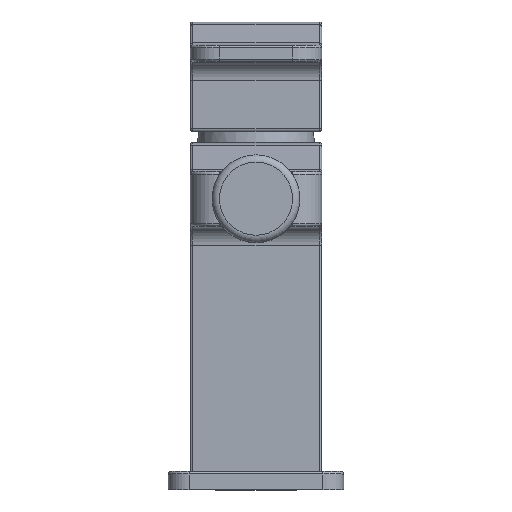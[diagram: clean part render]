
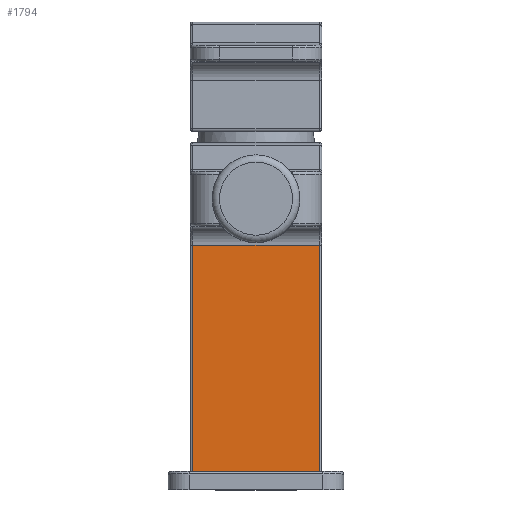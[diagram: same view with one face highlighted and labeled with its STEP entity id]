
A CAD part, top view. The second image highlights one B-rep face of the part: STEP entity #1794.
In plain terms, the highlighted planar face has unit normal (0, 0, 1).
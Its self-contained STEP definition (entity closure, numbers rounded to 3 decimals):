
#94=PLANE('',#2024);
#172=FACE_OUTER_BOUND('',#294,.T.);
#294=EDGE_LOOP('',(#1429,#1430,#1431,#1432));
#352=LINE('',#2832,#471);
#360=LINE('',#2882,#479);
#395=LINE('',#3026,#514);
#415=LINE('',#3100,#534);
#471=VECTOR('',#2185,10.);
#479=VECTOR('',#2243,10.);
#514=VECTOR('',#2408,10.);
#534=VECTOR('',#2504,10.);
#733=VERTEX_POINT('',#2829);
#734=VERTEX_POINT('',#2831);
#749=VERTEX_POINT('',#2874);
#751=VERTEX_POINT('',#2880);
#890=EDGE_CURVE('',#733,#734,#352,.T.);
#915=EDGE_CURVE('',#751,#749,#360,.T.);
#988=EDGE_CURVE('',#734,#751,#395,.T.);
#1024=EDGE_CURVE('',#733,#749,#415,.T.);
#1429=ORIENTED_EDGE('',*,*,#915,.F.);
#1430=ORIENTED_EDGE('',*,*,#988,.F.);
#1431=ORIENTED_EDGE('',*,*,#890,.F.);
#1432=ORIENTED_EDGE('',*,*,#1024,.T.);
#1794=ADVANCED_FACE('',(#172),#94,.T.);
#2024=AXIS2_PLACEMENT_3D('',#3101,#2505,#2506);
#2185=DIRECTION('',(0.,-1.,0.));
#2243=DIRECTION('',(0.,1.,0.));
#2408=DIRECTION('',(-1.,0.,0.));
#2504=DIRECTION('',(-1.,0.,0.));
#2505=DIRECTION('center_axis',(0.,0.,1.));
#2506=DIRECTION('ref_axis',(1.,0.,0.));
#2829=CARTESIAN_POINT('',(17.3,66.9,18.));
#2831=CARTESIAN_POINT('',(17.3,5.,18.));
#2832=CARTESIAN_POINT('',(17.3,5.,18.));
#2874=CARTESIAN_POINT('',(-17.3,66.9,18.));
#2880=CARTESIAN_POINT('',(-17.3,5.,18.));
#2882=CARTESIAN_POINT('',(-17.3,5.,18.));
#3026=CARTESIAN_POINT('',(18.,5.,18.));
#3100=CARTESIAN_POINT('',(-18.,66.9,18.));
#3101=CARTESIAN_POINT('Origin',(-18.,5.,18.));
